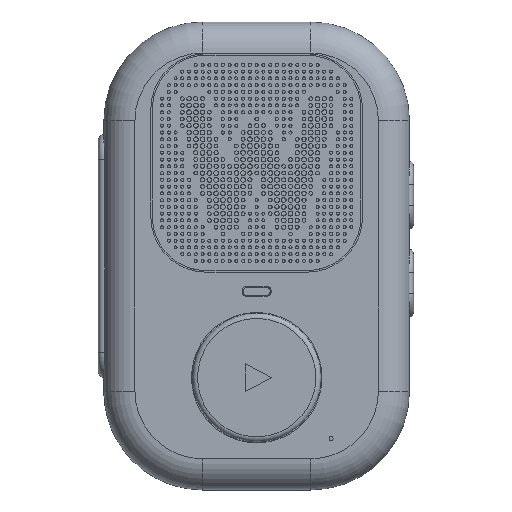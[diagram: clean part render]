
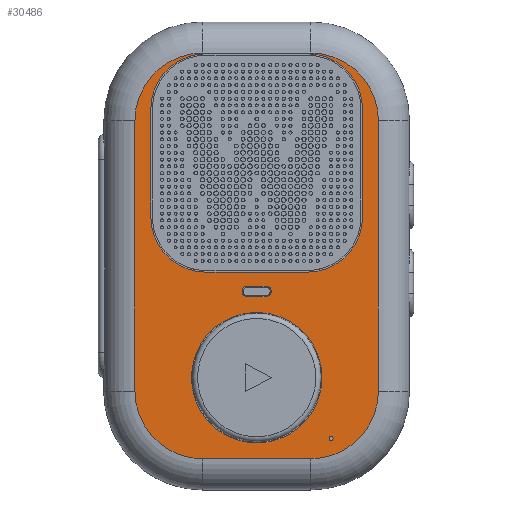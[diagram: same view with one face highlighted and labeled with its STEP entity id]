
A CAD part, top view. The second image highlights one B-rep face of the part: STEP entity #30486.
In plain terms, the highlighted planar face has unit normal (0, 0, 1).
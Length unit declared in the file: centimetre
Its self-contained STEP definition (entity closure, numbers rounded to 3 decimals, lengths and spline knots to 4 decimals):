
#120=FACE_BOUND('',#4794,.T.);
#121=FACE_BOUND('',#4795,.T.);
#122=FACE_BOUND('',#4796,.T.);
#123=FACE_BOUND('',#4797,.T.);
#3259=FACE_OUTER_BOUND('',#4793,.T.);
#4793=EDGE_LOOP('',(#24047,#24048,#24049,#24050,#24051,#24052,#24053,#24054));
#4794=EDGE_LOOP('',(#24055));
#4795=EDGE_LOOP('',(#24056,#24057,#24058,#24059,#24060,#24061,#24062,#24063));
#4796=EDGE_LOOP('',(#24064));
#4797=EDGE_LOOP('',(#24065,#24066,#24067,#24068,#24069,#24070,#24071,#24072));
#7421=CIRCLE('',#32342,0.06);
#7440=CIRCLE('',#32392,0.15);
#7442=CIRCLE('',#32396,0.15);
#7444=CIRCLE('',#32400,0.15);
#7446=CIRCLE('',#32404,0.15);
#7447=CIRCLE('',#32406,1.93);
#7449=CIRCLE('',#32410,1.63);
#7451=CIRCLE('',#32414,1.63);
#7453=CIRCLE('',#32418,1.63);
#7455=CIRCLE('',#32422,1.63);
#7471=CIRCLE('',#32453,2.);
#7473=CIRCLE('',#32456,2.);
#7476=CIRCLE('',#32461,2.);
#7479=CIRCLE('',#32466,2.);
#10302=LINE('',#47699,#12594);
#10325=LINE('',#47821,#12617);
#10329=LINE('',#47833,#12621);
#10333=LINE('',#47845,#12625);
#10337=LINE('',#47857,#12629);
#10340=LINE('',#47871,#12632);
#10345=LINE('',#47885,#12637);
#10349=LINE('',#47897,#12641);
#10353=LINE('',#47909,#12645);
#10366=LINE('',#47974,#12658);
#10367=LINE('',#47981,#12659);
#10368=LINE('',#47988,#12660);
#12594=VECTOR('',#37810,1.);
#12617=VECTOR('',#37879,1.);
#12621=VECTOR('',#37891,1.);
#12625=VECTOR('',#37903,1.);
#12629=VECTOR('',#37915,1.);
#12632=VECTOR('',#37932,1.);
#12637=VECTOR('',#37945,1.);
#12641=VECTOR('',#37957,1.);
#12645=VECTOR('',#37969,1.);
#12658=VECTOR('',#38058,1.);
#12659=VECTOR('',#38067,1.);
#12660=VECTOR('',#38078,1.);
#14667=VERTEX_POINT('',#47560);
#14690=VERTEX_POINT('',#47696);
#14691=VERTEX_POINT('',#47698);
#14710=VERTEX_POINT('',#47818);
#14711=VERTEX_POINT('',#47820);
#14713=VERTEX_POINT('',#47826);
#14715=VERTEX_POINT('',#47832);
#14717=VERTEX_POINT('',#47838);
#14719=VERTEX_POINT('',#47844);
#14721=VERTEX_POINT('',#47850);
#14723=VERTEX_POINT('',#47856);
#14724=VERTEX_POINT('',#47863);
#14726=VERTEX_POINT('',#47869);
#14727=VERTEX_POINT('',#47870);
#14730=VERTEX_POINT('',#47878);
#14732=VERTEX_POINT('',#47884);
#14734=VERTEX_POINT('',#47890);
#14736=VERTEX_POINT('',#47896);
#14738=VERTEX_POINT('',#47902);
#14740=VERTEX_POINT('',#47908);
#14752=VERTEX_POINT('',#47964);
#14753=VERTEX_POINT('',#47968);
#14754=VERTEX_POINT('',#47972);
#14755=VERTEX_POINT('',#47976);
#14756=VERTEX_POINT('',#47980);
#14757=VERTEX_POINT('',#47984);
#17991=EDGE_CURVE('',#14667,#14667,#7421,.T.);
#18031=EDGE_CURVE('',#14690,#14691,#10302,.T.);
#18067=EDGE_CURVE('',#14711,#14710,#10325,.T.);
#18070=EDGE_CURVE('',#14713,#14711,#7440,.T.);
#18073=EDGE_CURVE('',#14715,#14713,#10329,.T.);
#18076=EDGE_CURVE('',#14717,#14715,#7442,.T.);
#18079=EDGE_CURVE('',#14719,#14717,#10333,.T.);
#18082=EDGE_CURVE('',#14721,#14719,#7444,.T.);
#18085=EDGE_CURVE('',#14723,#14721,#10337,.T.);
#18088=EDGE_CURVE('',#14710,#14723,#7446,.T.);
#18089=EDGE_CURVE('',#14724,#14724,#7447,.T.);
#18092=EDGE_CURVE('',#14726,#14727,#10340,.T.);
#18096=EDGE_CURVE('',#14727,#14730,#7449,.T.);
#18099=EDGE_CURVE('',#14730,#14732,#10345,.T.);
#18102=EDGE_CURVE('',#14732,#14734,#7451,.T.);
#18105=EDGE_CURVE('',#14734,#14736,#10349,.T.);
#18108=EDGE_CURVE('',#14738,#14726,#7453,.T.);
#18111=EDGE_CURVE('',#14740,#14738,#10353,.T.);
#18114=EDGE_CURVE('',#14736,#14740,#7455,.T.);
#18140=EDGE_CURVE('',#14752,#14690,#7471,.T.);
#18142=EDGE_CURVE('',#14691,#14753,#7473,.T.);
#18144=EDGE_CURVE('',#14753,#14754,#10366,.T.);
#18146=EDGE_CURVE('',#14754,#14755,#7476,.T.);
#18147=EDGE_CURVE('',#14755,#14756,#10367,.T.);
#18150=EDGE_CURVE('',#14756,#14757,#7479,.T.);
#18151=EDGE_CURVE('',#14757,#14752,#10368,.T.);
#24047=ORIENTED_EDGE('',*,*,#18140,.F.);
#24048=ORIENTED_EDGE('',*,*,#18151,.F.);
#24049=ORIENTED_EDGE('',*,*,#18150,.F.);
#24050=ORIENTED_EDGE('',*,*,#18147,.F.);
#24051=ORIENTED_EDGE('',*,*,#18146,.F.);
#24052=ORIENTED_EDGE('',*,*,#18144,.F.);
#24053=ORIENTED_EDGE('',*,*,#18142,.F.);
#24054=ORIENTED_EDGE('',*,*,#18031,.F.);
#24055=ORIENTED_EDGE('',*,*,#17991,.T.);
#24056=ORIENTED_EDGE('',*,*,#18079,.T.);
#24057=ORIENTED_EDGE('',*,*,#18076,.T.);
#24058=ORIENTED_EDGE('',*,*,#18073,.T.);
#24059=ORIENTED_EDGE('',*,*,#18070,.T.);
#24060=ORIENTED_EDGE('',*,*,#18067,.T.);
#24061=ORIENTED_EDGE('',*,*,#18088,.T.);
#24062=ORIENTED_EDGE('',*,*,#18085,.T.);
#24063=ORIENTED_EDGE('',*,*,#18082,.T.);
#24064=ORIENTED_EDGE('',*,*,#18089,.T.);
#24065=ORIENTED_EDGE('',*,*,#18105,.T.);
#24066=ORIENTED_EDGE('',*,*,#18114,.T.);
#24067=ORIENTED_EDGE('',*,*,#18111,.T.);
#24068=ORIENTED_EDGE('',*,*,#18108,.T.);
#24069=ORIENTED_EDGE('',*,*,#18092,.T.);
#24070=ORIENTED_EDGE('',*,*,#18096,.T.);
#24071=ORIENTED_EDGE('',*,*,#18099,.T.);
#24072=ORIENTED_EDGE('',*,*,#18102,.T.);
#29795=PLANE('',#32468);
#30486=ADVANCED_FACE('',(#3259,#120,#121,#122,#123),#29795,.T.);
#32342=AXIS2_PLACEMENT_3D('',#47561,#37739,#37740);
#32392=AXIS2_PLACEMENT_3D('',#47827,#37885,#37886);
#32396=AXIS2_PLACEMENT_3D('',#47839,#37897,#37898);
#32400=AXIS2_PLACEMENT_3D('',#47851,#37909,#37910);
#32404=AXIS2_PLACEMENT_3D('',#47861,#37921,#37922);
#32406=AXIS2_PLACEMENT_3D('',#47864,#37925,#37926);
#32410=AXIS2_PLACEMENT_3D('',#47879,#37938,#37939);
#32414=AXIS2_PLACEMENT_3D('',#47891,#37950,#37951);
#32418=AXIS2_PLACEMENT_3D('',#47903,#37962,#37963);
#32422=AXIS2_PLACEMENT_3D('',#47914,#37974,#37975);
#32453=AXIS2_PLACEMENT_3D('',#47966,#38046,#38047);
#32456=AXIS2_PLACEMENT_3D('',#47970,#38052,#38053);
#32461=AXIS2_PLACEMENT_3D('',#47978,#38063,#38064);
#32466=AXIS2_PLACEMENT_3D('',#47986,#38074,#38075);
#32468=AXIS2_PLACEMENT_3D('',#47989,#38079,#38080);
#37739=DIRECTION('center_axis',(0.,0.,-1.));
#37740=DIRECTION('ref_axis',(1.,0.,0.));
#37810=DIRECTION('',(0.,-1.,0.));
#37879=DIRECTION('',(1.,0.,0.));
#37885=DIRECTION('center_axis',(0.,0.,-1.));
#37886=DIRECTION('ref_axis',(0.,1.,0.));
#37891=DIRECTION('',(0.,1.,0.));
#37897=DIRECTION('center_axis',(0.,0.,-1.));
#37898=DIRECTION('ref_axis',(-1.,0.,0.));
#37903=DIRECTION('',(-1.,0.,0.));
#37909=DIRECTION('center_axis',(0.,0.,-1.));
#37910=DIRECTION('ref_axis',(0.,-1.,0.));
#37915=DIRECTION('',(0.,-1.,0.));
#37921=DIRECTION('center_axis',(0.,0.,-1.));
#37922=DIRECTION('ref_axis',(1.,0.,0.));
#37925=DIRECTION('center_axis',(0.,0.,-1.));
#37926=DIRECTION('ref_axis',(1.,0.,0.));
#37932=DIRECTION('',(1.,0.,0.));
#37938=DIRECTION('center_axis',(0.,0.,-1.));
#37939=DIRECTION('ref_axis',(1.,0.,0.));
#37945=DIRECTION('',(0.,-1.,0.));
#37950=DIRECTION('center_axis',(0.,0.,-1.));
#37951=DIRECTION('ref_axis',(0.,-1.,0.));
#37957=DIRECTION('',(-1.,0.,0.));
#37962=DIRECTION('center_axis',(0.,0.,-1.));
#37963=DIRECTION('ref_axis',(0.,1.,0.));
#37969=DIRECTION('',(0.,1.,0.));
#37974=DIRECTION('center_axis',(0.,0.,-1.));
#37975=DIRECTION('ref_axis',(-1.,0.,0.));
#38046=DIRECTION('center_axis',(0.,0.,-1.));
#38047=DIRECTION('ref_axis',(0.707,0.707,0.));
#38052=DIRECTION('center_axis',(0.,0.,-1.));
#38053=DIRECTION('ref_axis',(0.707,-0.707,0.));
#38058=DIRECTION('',(-1.,0.,0.));
#38063=DIRECTION('center_axis',(0.,0.,-1.));
#38064=DIRECTION('ref_axis',(-0.707,-0.707,0.));
#38067=DIRECTION('',(0.,1.,0.));
#38074=DIRECTION('center_axis',(0.,0.,-1.));
#38075=DIRECTION('ref_axis',(-0.707,0.707,0.));
#38078=DIRECTION('',(1.,0.,0.));
#38079=DIRECTION('center_axis',(0.,0.,1.));
#38080=DIRECTION('ref_axis',(1.,0.,0.));
#47560=CARTESIAN_POINT('',(2.14,-5.4,1.44));
#47561=CARTESIAN_POINT('Origin',(2.2,-5.4,1.44));
#47696=CARTESIAN_POINT('',(3.6,4.,1.44));
#47698=CARTESIAN_POINT('',(3.6,-4.,1.44));
#47699=CARTESIAN_POINT('',(3.6,-3.46,1.44));
#47818=CARTESIAN_POINT('',(0.28,-0.895,1.44));
#47820=CARTESIAN_POINT('',(-0.28,-0.895,1.44));
#47821=CARTESIAN_POINT('',(-0.14,-0.895,1.44));
#47826=CARTESIAN_POINT('',(-0.43,-1.045,1.44));
#47827=CARTESIAN_POINT('Origin',(-0.28,-1.045,1.44));
#47832=CARTESIAN_POINT('',(-0.43,-1.055,1.44));
#47833=CARTESIAN_POINT('',(-0.43,-0.5275,1.44));
#47838=CARTESIAN_POINT('',(-0.28,-1.205,1.44));
#47839=CARTESIAN_POINT('Origin',(-0.28,-1.055,1.44));
#47844=CARTESIAN_POINT('',(0.28,-1.205,1.44));
#47845=CARTESIAN_POINT('',(0.14,-1.205,1.44));
#47850=CARTESIAN_POINT('',(0.43,-1.055,1.44));
#47851=CARTESIAN_POINT('Origin',(0.28,-1.055,1.44));
#47856=CARTESIAN_POINT('',(0.43,-1.045,1.44));
#47857=CARTESIAN_POINT('',(0.43,-0.5225,1.44));
#47861=CARTESIAN_POINT('Origin',(0.28,-1.045,1.44));
#47863=CARTESIAN_POINT('',(-1.93,-3.6,1.44));
#47864=CARTESIAN_POINT('Origin',(0.,-3.6,1.44));
#47869=CARTESIAN_POINT('',(-1.5,5.98,1.44));
#47870=CARTESIAN_POINT('',(1.5,5.98,1.44));
#47871=CARTESIAN_POINT('',(-0.75,5.98,1.44));
#47878=CARTESIAN_POINT('',(3.13,4.35,1.44));
#47879=CARTESIAN_POINT('Origin',(1.5,4.35,1.44));
#47884=CARTESIAN_POINT('',(3.13,1.15,1.44));
#47885=CARTESIAN_POINT('',(3.13,2.175,1.44));
#47890=CARTESIAN_POINT('',(1.5,-0.48,1.44));
#47891=CARTESIAN_POINT('Origin',(1.5,1.15,1.44));
#47896=CARTESIAN_POINT('',(-1.5,-0.48,1.44));
#47897=CARTESIAN_POINT('',(0.75,-0.48,1.44));
#47902=CARTESIAN_POINT('',(-3.13,4.35,1.44));
#47903=CARTESIAN_POINT('Origin',(-1.5,4.35,1.44));
#47908=CARTESIAN_POINT('',(-3.13,1.15,1.44));
#47909=CARTESIAN_POINT('',(-3.13,0.575,1.44));
#47914=CARTESIAN_POINT('Origin',(-1.5,1.15,1.44));
#47964=CARTESIAN_POINT('',(1.6,6.,1.44));
#47966=CARTESIAN_POINT('Origin',(1.6,4.,1.44));
#47968=CARTESIAN_POINT('',(1.6,-6.,1.44));
#47970=CARTESIAN_POINT('Origin',(1.6,-4.,1.44));
#47972=CARTESIAN_POINT('',(-1.6,-6.,1.44));
#47974=CARTESIAN_POINT('',(-2.26,-6.,1.44));
#47976=CARTESIAN_POINT('',(-3.6,-4.,1.44));
#47978=CARTESIAN_POINT('Origin',(-1.6,-4.,1.44));
#47980=CARTESIAN_POINT('',(-3.6,4.,1.44));
#47981=CARTESIAN_POINT('',(-3.6,3.46,1.44));
#47984=CARTESIAN_POINT('',(-1.6,6.,1.44));
#47986=CARTESIAN_POINT('Origin',(-1.6,4.,1.44));
#47988=CARTESIAN_POINT('',(2.26,6.,1.44));
#47989=CARTESIAN_POINT('Origin',(0.,0.,1.44));
